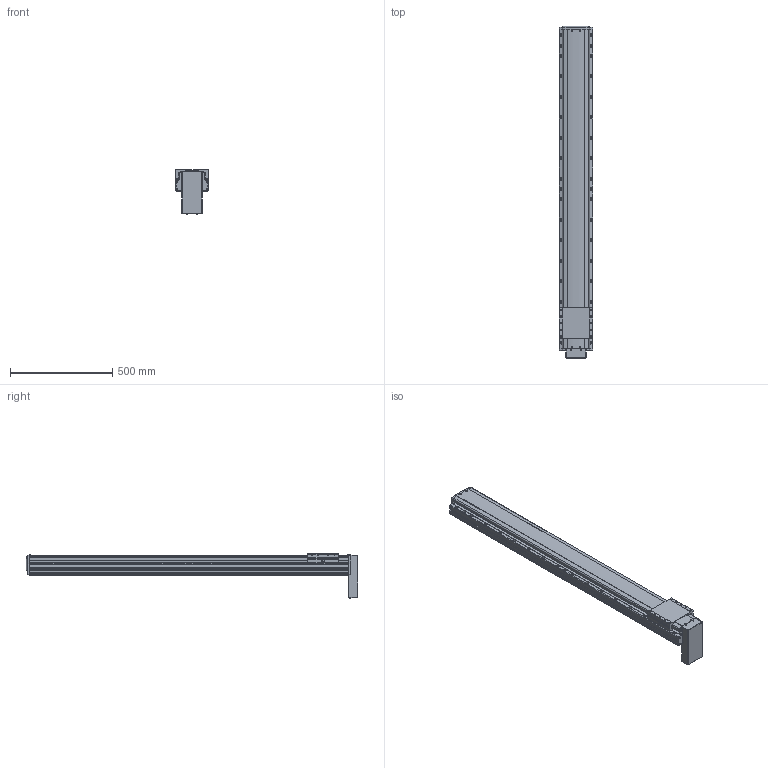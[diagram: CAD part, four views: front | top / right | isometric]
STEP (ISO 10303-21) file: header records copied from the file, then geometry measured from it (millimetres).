
FILE_DESCRIPTION(('STEP AP214'),'1');
FILE_NAME('Z:/Web/3D/PSA165/STP/PSA165-1300 (3D)/PSA165ㅁㅁ-1300PB.stp','2014-06-24T10:43:04',(' '),(' '),'Spatial InterOp 3D',' ',' ');
FILE_SCHEMA(('automotive_design'));
Length unit declared in the file: millimetre
Products named in the file (29): 스크루 : Round - M4.0 x 12.0; RRCV-PA160; BASE; 스크루 : Round - M4.0 x 10.0; RN15; Screw 20; SLIDE; FRCV; MTPL CV- PB; 스크루 : Round - M3.0 x 6.0; 1; 2
Bounding box: 165 x 1620.8 x 215.96 mm (x, y, z)
Volume: 22529139.6 mm3; surface area: 1356514.6 mm2
Topology: 29 solids, 29 shells, 2311 faces, 6208 edges, 3944 vertices
Faces by surface type: plane 1198, cylinder 782, cone 238, sphere 52, bspline 25, torus 16
Entity records: 94145 total; most frequent: CARTESIAN_POINT 16910, DIRECTION 12339, ORIENTED_EDGE 12076, EDGE_CURVE 6038, AXIS2_PLACEMENT_3D 4233, VERTEX_POINT 3944, LINE 3873, VECTOR 3873
